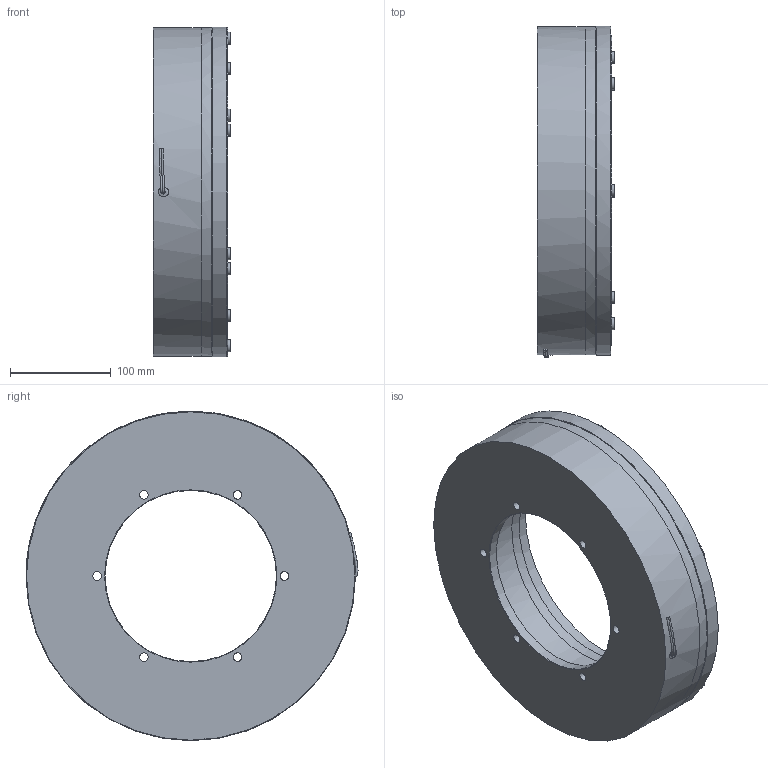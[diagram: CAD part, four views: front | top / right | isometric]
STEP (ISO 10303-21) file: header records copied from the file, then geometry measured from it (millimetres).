
FILE_DESCRIPTION(/* description */ (''),/* implementation_level */ '2;1');
FILE_NAME(/* name */ 'X:\INVENTOR\DISEGNI\08_Freni_Friz_Elettmag_Monodisco\08_28 EMFL_DF\EMFL_DF STEP\08_28_310_11 EMFL310_DF-B@STEP.stp',/* time_stamp */ '2018-04-23T16:10:26+02:00',/* author */ ('stefano'),/* organization */ (''),/* preprocessor_version */ 'ST-DEVELOPER v17',/* originating_system */ 'Autodesk Inventor 2018',/* authorisation */ '');
FILE_SCHEMA (('AUTOMOTIVE_DESIGN { 1 0 10303 214 3 1 1 }'));
Length unit declared in the file: millimetre
Products named in the file (1): 08_28_310_11 EMFL310_DF-B_Substitute_1
Bounding box: 77 x 329.5 x 327 mm (x, y, z)
Volume: 3641401.6 mm3; surface area: 453330.9 mm2
Topology: 2 solids, 2 shells, 404 faces, 1207 edges, 809 vertices
Faces by surface type: cylinder 277, plane 87, cone 37, bspline 3
Full cylindrical faces by diameter (mm): 3 x12, 4 x1, 8.1 x12, 8.5 x6, 9 x1, 10.1 x6, 12 x12, 15 x12, 170 x1, 202 x2, 214 x1, 238 x1, 300 x1, 326 x2, 327 x1
Entity records: 15297 total; most frequent: CARTESIAN_POINT 2901, DIRECTION 2880, ORIENTED_EDGE 2416, AXIS2_PLACEMENT_3D 1282, EDGE_CURVE 1208, CIRCLE 880, VERTEX_POINT 809, EDGE_LOOP 528
